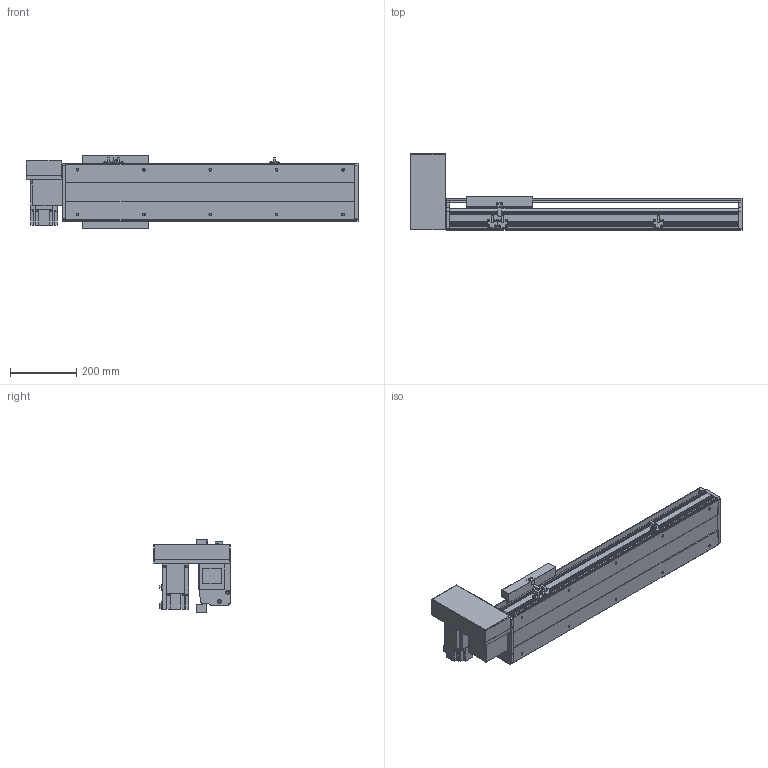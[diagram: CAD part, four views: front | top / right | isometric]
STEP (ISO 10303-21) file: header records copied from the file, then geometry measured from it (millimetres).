
FILE_DESCRIPTION(/* description */ ('STEP AP214'),/* implementation_level */ '2;1');
FILE_NAME(/* name */ 'PBS200-P40-S500-RU-T75-C1-N(0)',/* time_stamp */ '2022-06-11T09:34:36+02:00',/* author */ ('License CC BY-ND 4.0'),/* organization */ ('CADENAS'),/* preprocessor_version */ 'ST-DEVELOPER v18.102',/* originating_system */ 'PARTsolutions',/* authorisation */ ' ');
FILE_SCHEMA (('AUTOMOTIVE_DESIGN {1 0 10303 214 3 1 1}'));
Length unit declared in the file: millimetre
Products named in the file (7): PBS200-P40-S500-RU-T75-C1-N(0); PBS200_sensor; PBS200_plant; PBS200_sliser; T75-p1; PBS200T-RU_motors; PBS200-S500()_body
Assembly tree (8 placements, depth 2):
  PBS200-P40-S500-RU-T75-C1-N(0)
    PBS200_sensor  x3
    PBS200_plant
    PBS200_sliser
    T75-p1
    PBS200T-RU_motors
    PBS200-S500()_body
Bounding box: 1000 x 231 x 221 mm (x, y, z)
Volume: 8115450.3 mm3; surface area: 1327062.7 mm2
Topology: 8 solids, 8 shells, 902 faces, 2344 edges, 1530 vertices
Faces by surface type: plane 568, cylinder 292, cone 42
Full cylindrical faces by diameter (mm): 2.459 x6, 3.242 x4, 4.5 x6, 4.917 x4, 5 x6, 6 x7, 6.6 x8, 6.647 x14, 8 x6, 10 x4, 12 x8, 38 x2, 40 x1, 70 x1
Entity records: 24221 total; most frequent: DIRECTION 4255, CARTESIAN_POINT 4138, ORIENTED_EDGE 3946, EDGE_CURVE 1973, AXIS2_PLACEMENT_3D 1471, VERTEX_POINT 1354, LINE 1313, VECTOR 1313
